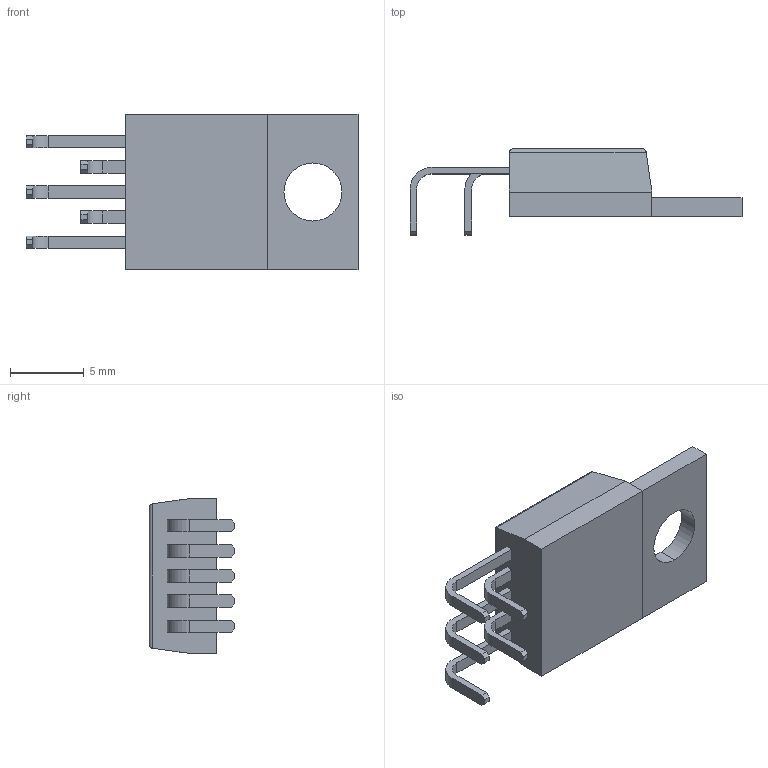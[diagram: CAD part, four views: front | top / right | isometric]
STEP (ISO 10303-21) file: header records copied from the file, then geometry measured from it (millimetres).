
FILE_DESCRIPTION (( 'STEP AP214' ), '1' );
FILE_NAME ( 'TO170P1575X1054X457-5P.STEP', '2014-04-11T12:31:23', ( '' ), ( '' ), 'FPX Expert 2013', 'PCB Libraries', '' );
FILE_SCHEMA (( 'AUTOMOTIVE_DESIGN' ));
Length unit declared in the file: millimetre
Products named in the file (1): TO170P1575X1054X457-5P
Bounding box: 22.48 x 5.82 x 10.54 mm (x, y, z)
Volume: 529 mm3; surface area: 648.5 mm2
Topology: 7 solids, 7 shells, 84 faces, 203 edges, 134 vertices
Faces by surface type: plane 66, cylinder 16, torus 2
Entity records: 2768 total; most frequent: CARTESIAN_POINT 440, ORIENTED_EDGE 406, DIRECTION 397, EDGE_CURVE 203, VECTOR 167, LINE 167, VERTEX_POINT 134, AXIS2_PLACEMENT_3D 115
